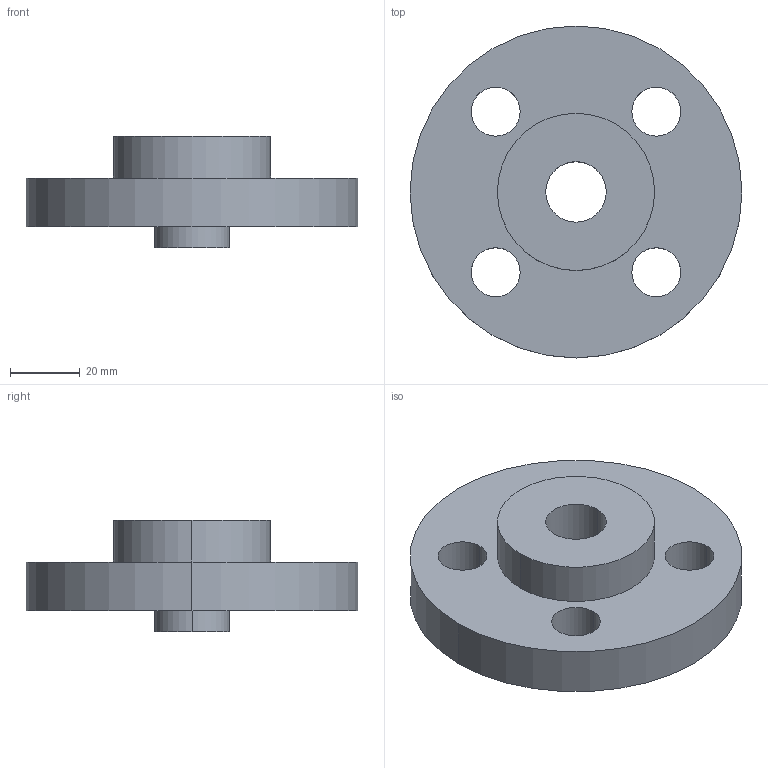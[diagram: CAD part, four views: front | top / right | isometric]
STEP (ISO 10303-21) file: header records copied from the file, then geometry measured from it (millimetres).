
FILE_DESCRIPTION (( 'STEP AP214' ), '1' );
FILE_NAME ('PN40 DN15 Type 04 in 34 - (Type A Face).STEP', '2018-12-29T15:09:44', ( '' ), ( '' ), 'SwSTEP 2.0', 'SolidWorks 2019', '' );
FILE_SCHEMA (( 'AUTOMOTIVE_DESIGN' ));
Length unit declared in the file: millimetre
Products named in the file (1): PN40 DN15 Type 04 in 34 - (Type A Face)
Bounding box: 95 x 95 x 32 mm (x, y, z)
Volume: 96568.9 mm3; surface area: 26319.5 mm2
Topology: 2 solids, 2 shells, 29 faces, 66 edges, 42 vertices
Faces by surface type: cylinder 18, cone 6, plane 5
Entity records: 901 total; most frequent: DIRECTION 168, CARTESIAN_POINT 138, ORIENTED_EDGE 132, AXIS2_PLACEMENT_3D 72, EDGE_CURVE 66, CIRCLE 42, EDGE_LOOP 42, VERTEX_POINT 42
